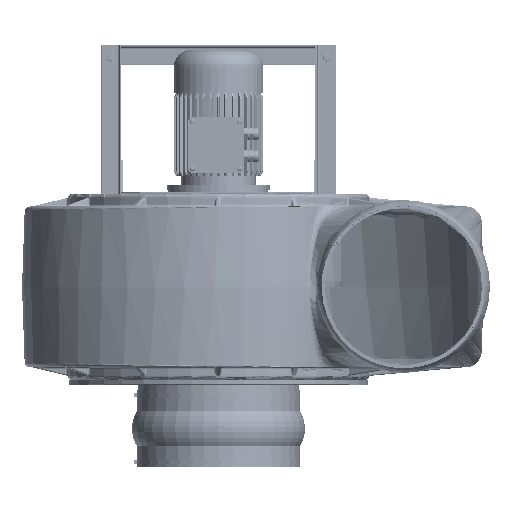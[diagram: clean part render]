
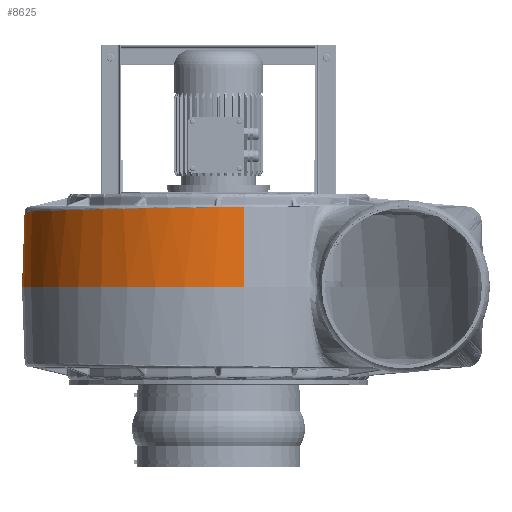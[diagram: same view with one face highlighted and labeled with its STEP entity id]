
A CAD part, top view. The second image highlights one B-rep face of the part: STEP entity #8625.
In plain terms, the highlighted face is a revolution surface.
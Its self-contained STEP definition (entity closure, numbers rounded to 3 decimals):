
#8625 = ADVANCED_FACE( '', ( #17875 ), #17876, .F. );
#17875 = FACE_OUTER_BOUND( '', #76231, .T. );
#17876 = SURFACE_OF_REVOLUTION( '', #76232, #76233 );
#76231 = EDGE_LOOP( '', ( #117546, #117547, #117548, #117549 ) );
#76232 = B_SPLINE_CURVE_WITH_KNOTS( '', 1, ( #117550, #117551 ), .UNSPECIFIED., .F., .F., ( 2, 2 ), ( 0., 1. ), .UNSPECIFIED. );
#76233 = AXIS1_PLACEMENT( '', #117552, #117553 );
#117546 = ORIENTED_EDGE( '', *, *, #127083, .F. );
#117547 = ORIENTED_EDGE( '', *, *, #126359, .F. );
#117548 = ORIENTED_EDGE( '', *, *, #124919, .F. );
#117549 = ORIENTED_EDGE( '', *, *, #127770, .T. );
#117550 = CARTESIAN_POINT( '', ( 0., -252.611, 245.865 ) );
#117551 = CARTESIAN_POINT( '', ( -157.5, -248.855, 241.847 ) );
#117552 = CARTESIAN_POINT( '', ( -78.75, -23.34, -33.602 ) );
#117553 = DIRECTION( '', ( 1., 0., 0. ) );
#124919 = EDGE_CURVE( '', #134986, #134988, #134989, .T. );
#126359 = EDGE_CURVE( '', #134988, #134828, #137036, .F. );
#127083 = EDGE_CURVE( '', #134828, #137438, #137978, .F. );
#127770 = EDGE_CURVE( '', #134986, #137438, #138839, .F. );
#134828 = VERTEX_POINT( '', #157430 );
#134986 = VERTEX_POINT( '', #157921 );
#134988 = VERTEX_POINT( '', #157926 );
#134989 = CIRCLE( '', #157927, 361.479 );
#137036 = B_SPLINE_CURVE_WITH_KNOTS( '', 1, ( #166498, #166499 ), .UNSPECIFIED., .F., .F., ( 2, 2 ), ( 0.069, 1. ), .UNSPECIFIED. );
#137438 = VERTEX_POINT( '', #167475 );
#137978 = B_SPLINE_CURVE_WITH_KNOTS( '', 3, ( #168961, #168962, #168963, #168964, #168965, #168966, #168967, #168968, #168969, #168970, #168971, #168972, #168973, #168974, #168975, #168976, #168977, #168978, #168979, #168980, #168981, #168982, #168983, #168984, #168985, #168986, #168987, #168988, #168989, #168990, #168991, #168992, #168993, #168994, #168995, #168996, #168997, #168998, #168999, #169000, #169001, #169002, #169003, #169004, #169005, #169006, #169007, #169008, #169009, #169010, #169011, #169012, #169013, #169014, #169015, #169016, #169017, #169018, #169019, #169020, #169021, #169022, #169023, #169024, #169025, #169026, #169027, #169028, #169029, #169030, #169031, #169032 ), .UNSPECIFIED., .F., .F., ( 4, 2, 2, 2, 2, 2, 2, 2, 2, 2, 2, 2, 2, 2, 2, 2, 2, 2, 2, 2, 2, 2, 2, 2, 2, 2, 2, 2, 2, 2, 2, 2, 2, 2, 2, 4 ), ( 0., 0.016, 0.023, 0.027, 0.031, 0.047, 0.055, 0.063, 0.094, 0.125, 0.156, 0.188, 0.25, 0.313, 0.344, 0.375, 0.406, 0.438, 0.469, 0.5, 0.563, 0.625, 0.656, 0.688, 0.719, 0.75, 0.781, 0.797, 0.813, 0.844, 0.859, 0.875, 0.906, 0.922, 0.938, 1. ), .UNSPECIFIED. );
#138839 = B_SPLINE_CURVE_WITH_KNOTS( '', 1, ( #171398, #171399 ), .UNSPECIFIED., .F., .F., ( 2, 2 ), ( 0.014, 1. ), .UNSPECIFIED. );
#157430 = CARTESIAN_POINT( '', ( -146.595, -379.703, -35.932 ) );
#157921 = CARTESIAN_POINT( '', ( 0., 49.964, 320.367 ) );
#157926 = CARTESIAN_POINT( '', ( 0., -384.809, -36.301 ) );
#157927 = AXIS2_PLACEMENT_3D( '', #179979, #179980, #179981 );
#166498 = CARTESIAN_POINT( '', ( -146.595, -379.703, -35.932 ) );
#166499 = CARTESIAN_POINT( '', ( 0., -384.809, -36.301 ) );
#167475 = CARTESIAN_POINT( '', ( -155.222, 49.196, 315.002 ) );
#168961 = CARTESIAN_POINT( '', ( -155.223, 49.196, 315.002 ) );
#168962 = CARTESIAN_POINT( '', ( -155.223, 45.966, 315.674 ) );
#168963 = CARTESIAN_POINT( '', ( -155.22, 42.724, 316.302 ) );
#168964 = CARTESIAN_POINT( '', ( -155.214, 37.844, 317.177 ) );
#168965 = CARTESIAN_POINT( '', ( -155.212, 36.215, 317.457 ) );
#168966 = CARTESIAN_POINT( '', ( -155.207, 33.766, 317.861 ) );
#168967 = CARTESIAN_POINT( '', ( -155.205, 32.949, 317.993 ) );
#168968 = CARTESIAN_POINT( '', ( -155.202, 31.313, 318.251 ) );
#168969 = CARTESIAN_POINT( '', ( -155.2, 30.494, 318.377 ) );
#168970 = CARTESIAN_POINT( '', ( -155.19, 26.404, 318.994 ) );
#168971 = CARTESIAN_POINT( '', ( -155.179, 23.128, 319.441 ) );
#168972 = CARTESIAN_POINT( '', ( -155.161, 18.207, 320.043 ) );
#168973 = CARTESIAN_POINT( '', ( -155.155, 16.565, 320.232 ) );
#168974 = CARTESIAN_POINT( '', ( -155.141, 13.28, 320.587 ) );
#168975 = CARTESIAN_POINT( '', ( -155.134, 11.638, 320.754 ) );
#168976 = CARTESIAN_POINT( '', ( -155.094, 3.402, 321.529 ) );
#168977 = CARTESIAN_POINT( '', ( -155.055, -3.193, 321.966 ) );
#168978 = CARTESIAN_POINT( '', ( -154.963, -16.4, 322.471 ) );
#168979 = CARTESIAN_POINT( '', ( -154.911, -23.012, 322.541 ) );
#168980 = CARTESIAN_POINT( '', ( -154.793, -36.245, 322.311 ) );
#168981 = CARTESIAN_POINT( '', ( -154.727, -42.849, 322.012 ) );
#168982 = CARTESIAN_POINT( '', ( -154.585, -56.03, 321.049 ) );
#168983 = CARTESIAN_POINT( '', ( -154.508, -62.609, 320.383 ) );
#168984 = CARTESIAN_POINT( '', ( -154.262, -82.3, 317.837 ) );
#168985 = CARTESIAN_POINT( '', ( -154.077, -95.294, 315.415 ) );
#168986 = CARTESIAN_POINT( '', ( -153.672, -121.012, 309.122 ) );
#168987 = CARTESIAN_POINT( '', ( -153.453, -133.655, 305.273 ) );
#168988 = CARTESIAN_POINT( '', ( -153.106, -152.303, 298.439 ) );
#168989 = CARTESIAN_POINT( '', ( -152.987, -158.446, 295.991 ) );
#168990 = CARTESIAN_POINT( '', ( -152.743, -170.585, 290.759 ) );
#168991 = CARTESIAN_POINT( '', ( -152.619, -176.581, 287.975 ) );
#168992 = CARTESIAN_POINT( '', ( -152.366, -188.431, 282.065 ) );
#168993 = CARTESIAN_POINT( '', ( -152.238, -194.264, 278.95 ) );
#168994 = CARTESIAN_POINT( '', ( -151.978, -205.747, 272.401 ) );
#168995 = CARTESIAN_POINT( '', ( -151.846, -211.396, 268.968 ) );
#168996 = CARTESIAN_POINT( '', ( -151.581, -222.517, 261.777 ) );
#168997 = CARTESIAN_POINT( '', ( -151.447, -227.968, 258.033 ) );
#168998 = CARTESIAN_POINT( '', ( -151.178, -238.653, 250.248 ) );
#168999 = CARTESIAN_POINT( '', ( -151.043, -243.886, 246.207 ) );
#169000 = CARTESIAN_POINT( '', ( -150.639, -259.265, 233.633 ) );
#169001 = CARTESIAN_POINT( '', ( -150.369, -269.018, 224.709 ) );
#169002 = CARTESIAN_POINT( '', ( -149.838, -287.533, 205.766 ) );
#169003 = CARTESIAN_POINT( '', ( -149.577, -296.234, 195.811 ) );
#169004 = CARTESIAN_POINT( '', ( -149.198, -308.454, 180.148 ) );
#169005 = CARTESIAN_POINT( '', ( -149.074, -312.376, 174.822 ) );
#169006 = CARTESIAN_POINT( '', ( -148.831, -319.917, 163.96 ) );
#169007 = CARTESIAN_POINT( '', ( -148.712, -323.537, 158.422 ) );
#169008 = CARTESIAN_POINT( '', ( -148.48, -330.472, 147.138 ) );
#169009 = CARTESIAN_POINT( '', ( -148.367, -333.777, 141.409 ) );
#169010 = CARTESIAN_POINT( '', ( -148.149, -340.063, 129.774 ) );
#169011 = CARTESIAN_POINT( '', ( -148.044, -343.045, 123.867 ) );
#169012 = CARTESIAN_POINT( '', ( -147.842, -348.682, 111.882 ) );
#169013 = CARTESIAN_POINT( '', ( -147.745, -351.329, 105.82 ) );
#169014 = CARTESIAN_POINT( '', ( -147.606, -355.044, 96.623 ) );
#169015 = CARTESIAN_POINT( '', ( -147.562, -356.239, 93.54 ) );
#169016 = CARTESIAN_POINT( '', ( -147.474, -358.545, 87.339 ) );
#169017 = CARTESIAN_POINT( '', ( -147.432, -359.656, 84.22 ) );
#169018 = CARTESIAN_POINT( '', ( -147.309, -362.857, 74.816 ) );
#169019 = CARTESIAN_POINT( '', ( -147.232, -364.813, 68.497 ) );
#169020 = CARTESIAN_POINT( '', ( -147.125, -367.481, 58.943 ) );
#169021 = CARTESIAN_POINT( '', ( -147.091, -368.326, 55.746 ) );
#169022 = CARTESIAN_POINT( '', ( -147.026, -369.928, 49.327 ) );
#169023 = CARTESIAN_POINT( '', ( -146.995, -370.684, 46.103 ) );
#169024 = CARTESIAN_POINT( '', ( -146.906, -372.819, 36.4 ) );
#169025 = CARTESIAN_POINT( '', ( -146.854, -374.06, 29.903 ) );
#169026 = CARTESIAN_POINT( '', ( -146.785, -375.648, 20.111 ) );
#169027 = CARTESIAN_POINT( '', ( -146.764, -376.132, 16.84 ) );
#169028 = CARTESIAN_POINT( '', ( -146.725, -377.009, 10.282 ) );
#169029 = CARTESIAN_POINT( '', ( -146.707, -377.402, 6.996 ) );
#169030 = CARTESIAN_POINT( '', ( -146.628, -379.139, -9.482 ) );
#169031 = CARTESIAN_POINT( '', ( -146.595, -379.79, -22.69 ) );
#169032 = CARTESIAN_POINT( '', ( -146.595, -379.703, -35.932 ) );
#171398 = CARTESIAN_POINT( '', ( -155.222, 49.196, 315.002 ) );
#171399 = CARTESIAN_POINT( '', ( -0.001, 49.95, 320.37 ) );
#179979 = CARTESIAN_POINT( '', ( 0., -23.34, -33.602 ) );
#179980 = DIRECTION( '', ( 1., 0., 0. ) );
#179981 = DIRECTION( '', ( 0., 1., 0. ) );
